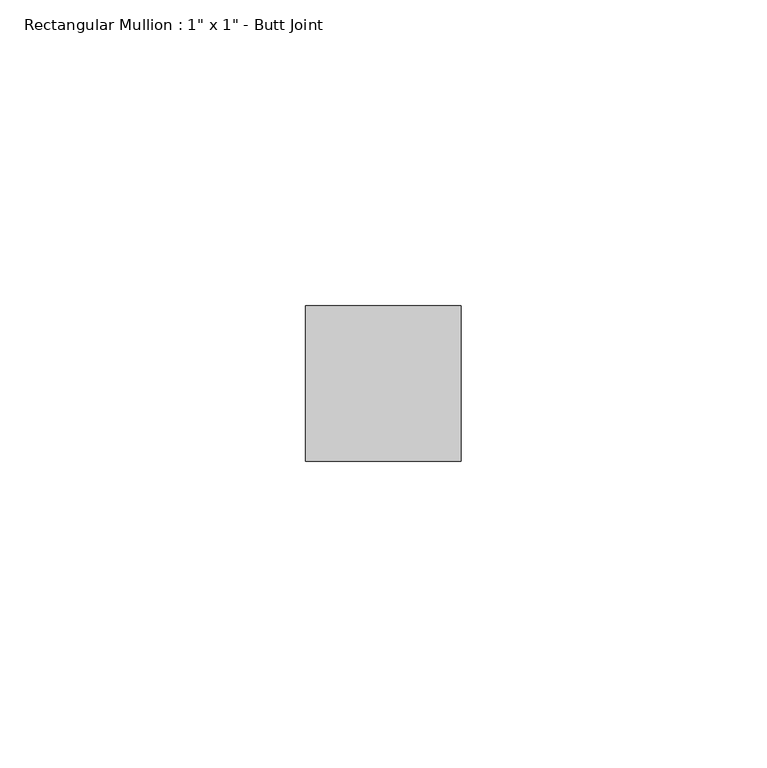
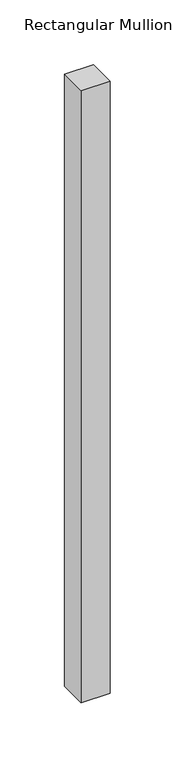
"""IFC4 building model written with IfcOpenShell, lengths in millimetres: member geometry."""

from ifc_helpers import new_model, si_unit, frame, origin, place, context, project, spatial, polyline, outline, extrude, source, transform, mapped, element, save


def member_a85bf1d9(model_context):
    return source(origin(), model_context, "Body", "SweptSolid", [
        extrude(outline(polyline([(12.7, 12.7), (12.7, -12.7), (-12.7, -12.7), (-12.7, 12.7), (12.7, 12.7)])), frame((0.0, 0.0, -575.2343785), z_axis=(0.0, 0.0, 1.0), x_axis=(1.0, 0.0, 0.0)), (0.0, 0.0, 1.0), 575.2343785),
    ])


if __name__ == "__main__":
    model = new_model("IFC4")
    model_context = context("Model", 3, world=origin())
    ifc_project = project(units=[si_unit("LENGTHUNIT", "METRE", prefix="MILLI")], contexts=[model_context])
    site = spatial("IfcSite", under=ifc_project)
    building = spatial("IfcBuilding", under=site)
    placement = place(None, origin())
    member_shape = member_a85bf1d9(model_context)
    element("IfcMember", 1, ObjectType="Rectangular Mullion : 1\" x 1\" - Butt Joint", at=placement, inside=building, context=model_context, shape_type="MappedRepresentation", body=[
        mapped(member_shape, transform((0.0, 0.0, 0.0), x_axis=(1.0, 0.0, 0.0), y_axis=(0.0, 1.0, 0.0), z_axis=(0.0, 0.0, 1.0))),
    ])
    save(model, "model.ifc")
